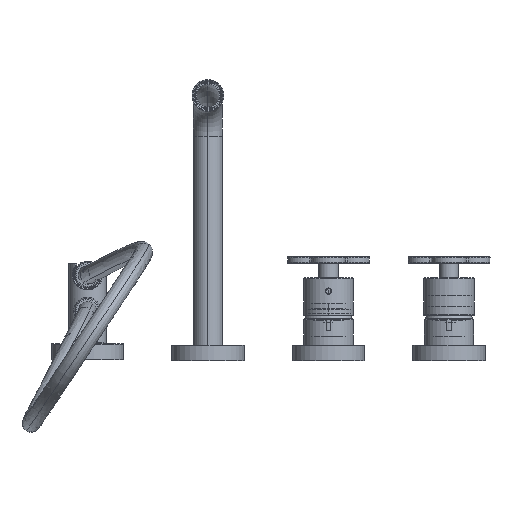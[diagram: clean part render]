
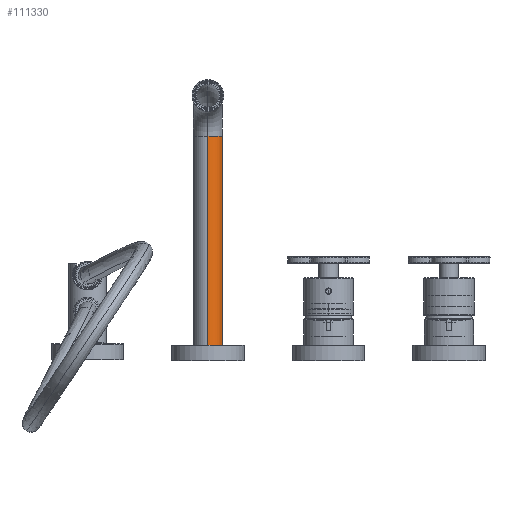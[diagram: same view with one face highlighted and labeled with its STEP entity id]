
A CAD part, front view. The second image highlights one B-rep face of the part: STEP entity #111330.
In plain terms, the highlighted cylindrical face has radius 12 mm (diameter 24 mm), a partial arc.
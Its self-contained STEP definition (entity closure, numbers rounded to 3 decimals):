
#110532=CARTESIAN_POINT('',(-100.,0.,8.7));
#110533=DIRECTION('',(0.,0.,-1.));
#110534=DIRECTION('',(0.,1.,0.));
#110535=AXIS2_PLACEMENT_3D('',#110532,#110533,#110534);
#110537=CARTESIAN_POINT('',(-100.,0.,187.95));
#110538=DIRECTION('',(0.,0.,-1.));
#110539=DIRECTION('',(0.,1.,0.));
#110540=AXIS2_PLACEMENT_3D('',#110537,#110538,#110539);
#110542=DIRECTION('',(0.,0.,-1.));
#110543=VECTOR('',#110542,179.25);
#110544=CARTESIAN_POINT('',(-100.,12.,187.95));
#110545=LINE('',#110544,#110543);
#110766=DIRECTION('',(0.,0.,-1.));
#110767=VECTOR('',#110766,179.25);
#110768=CARTESIAN_POINT('',(-100.,-12.,187.95));
#110769=LINE('',#110768,#110767);
#110955=CARTESIAN_POINT('',(-100.,-12.,187.95));
#110956=CARTESIAN_POINT('',(-100.,12.,187.95));
#110957=VERTEX_POINT('',#110955);
#110958=VERTEX_POINT('',#110956);
#111019=CARTESIAN_POINT('',(-100.,-12.,8.7));
#111020=CARTESIAN_POINT('',(-100.,12.,8.7));
#111021=VERTEX_POINT('',#111019);
#111022=VERTEX_POINT('',#111020);
#111316=CARTESIAN_POINT('',(-100.,0.,187.95));
#111317=DIRECTION('',(0.,0.,-1.));
#111318=DIRECTION('',(0.,-1.,0.));
#111319=AXIS2_PLACEMENT_3D('',#111316,#111317,#111318);
#111320=CYLINDRICAL_SURFACE('',#111319,12.);
#111322=ORIENTED_EDGE('',*,*,#111321,.T.);
#111324=ORIENTED_EDGE('',*,*,#111323,.F.);
#111325=ORIENTED_EDGE('',*,*,#111303,.F.);
#111327=ORIENTED_EDGE('',*,*,#111326,.T.);
#111328=EDGE_LOOP('',(#111322,#111324,#111325,#111327));
#111329=FACE_OUTER_BOUND('',#111328,.F.);
#110536=CIRCLE('',#110535,12.);
#110541=CIRCLE('',#110540,12.);
#111303=EDGE_CURVE('',#110958,#110957,#110541,.T.);
#111321=EDGE_CURVE('',#111022,#111021,#110536,.T.);
#111323=EDGE_CURVE('',#110957,#111021,#110769,.T.);
#111326=EDGE_CURVE('',#110958,#111022,#110545,.T.);
#111330=ADVANCED_FACE('',(#111329),#111320,.T.);
